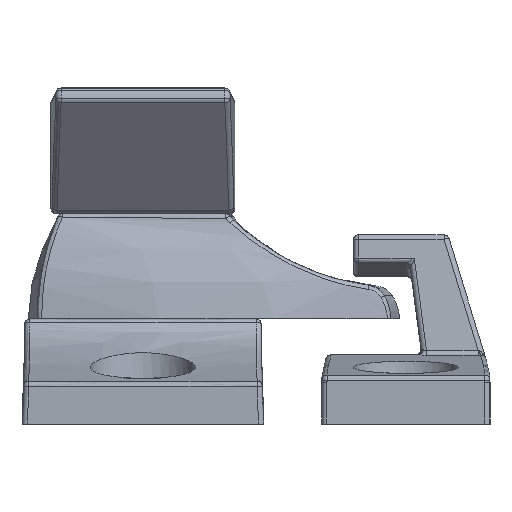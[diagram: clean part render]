
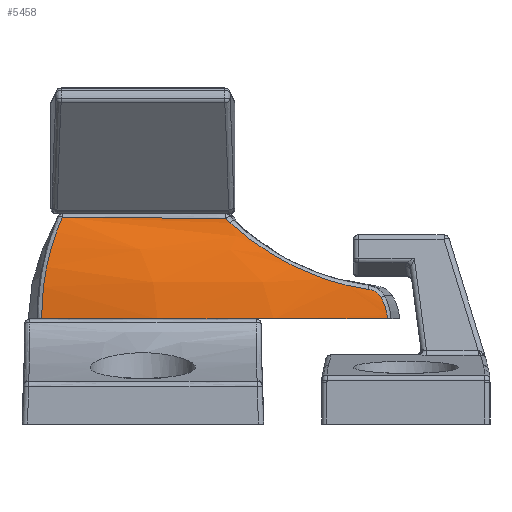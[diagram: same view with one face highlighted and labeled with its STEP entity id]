
A CAD part, left-side view. The second image highlights one B-rep face of the part: STEP entity #5458.
In plain terms, the highlighted free-form (B-spline) face has degree [3, 3] with [4, 4] control points.
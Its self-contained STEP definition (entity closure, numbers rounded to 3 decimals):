
#874=B_SPLINE_CURVE_WITH_KNOTS('',3,(#9637,#9638,#9639,#9640),
 .UNSPECIFIED.,.F.,.F.,(4,4),(-0.206,0.),
 .UNSPECIFIED.);
#877=B_SPLINE_CURVE_WITH_KNOTS('',3,(#9685,#9686,#9687,#9688,#9689,#9690),
 .UNSPECIFIED.,.F.,.F.,(4,2,4),(0.,0.054,0.148),
 .UNSPECIFIED.);
#878=B_SPLINE_CURVE_WITH_KNOTS('',3,(#9729,#9730,#9731,#9732,#9733,#9734,
#9735),.UNSPECIFIED.,.F.,.F.,(4,1,1,1,4),(-1.489,-1.276,
-1.064,-0.638,0.),.UNSPECIFIED.);
#880=B_SPLINE_CURVE_WITH_KNOTS('',3,(#9766,#9767,#9768,#9769),
 .UNSPECIFIED.,.F.,.F.,(4,4),(-0.061,0.),
 .UNSPECIFIED.);
#904=B_SPLINE_CURVE_WITH_KNOTS('',3,(#10246,#10247,#10248,#10249,#10250),
 .UNSPECIFIED.,.F.,.F.,(4,1,4),(0.,0.572,
1.),.UNSPECIFIED.);
#908=B_SPLINE_CURVE_WITH_KNOTS('',3,(#10308,#10309,#10310,#10311),
 .UNSPECIFIED.,.F.,.F.,(4,4),(-1.726,-0.174),
 .UNSPECIFIED.);
#1135=B_SPLINE_SURFACE_WITH_KNOTS('',3,3,((#10312,#10313,#10314,#10315),
(#10316,#10317,#10318,#10319),(#10320,#10321,#10322,#10323),(#10324,#10325,
#10326,#10327)),.UNSPECIFIED.,.F.,.F.,.F.,(4,4),(4,4),(0.011,
0.992),(0.,0.97),.UNSPECIFIED.);
#1389=FACE_OUTER_BOUND('',#1787,.T.);
#1787=EDGE_LOOP('',(#4418,#4419,#4420,#4421,#4422,#4423,#4424));
#2150=CIRCLE('',#5974,79.72);
#2492=VERTEX_POINT('',#9621);
#2495=VERTEX_POINT('',#9635);
#2498=VERTEX_POINT('',#9683);
#2500=VERTEX_POINT('',#9727);
#2502=VERTEX_POINT('',#9764);
#2511=VERTEX_POINT('',#9953);
#2526=VERTEX_POINT('',#10245);
#3140=EDGE_CURVE('',#2495,#2492,#874,.T.);
#3144=EDGE_CURVE('',#2498,#2495,#877,.T.);
#3146=EDGE_CURVE('',#2500,#2498,#878,.T.);
#3149=EDGE_CURVE('',#2502,#2500,#880,.T.);
#3165=EDGE_CURVE('',#2511,#2492,#2150,.T.);
#3190=EDGE_CURVE('',#2511,#2526,#904,.T.);
#3200=EDGE_CURVE('',#2526,#2502,#908,.T.);
#4418=ORIENTED_EDGE('',*,*,#3149,.F.);
#4419=ORIENTED_EDGE('',*,*,#3200,.F.);
#4420=ORIENTED_EDGE('',*,*,#3190,.F.);
#4421=ORIENTED_EDGE('',*,*,#3165,.T.);
#4422=ORIENTED_EDGE('',*,*,#3140,.F.);
#4423=ORIENTED_EDGE('',*,*,#3144,.F.);
#4424=ORIENTED_EDGE('',*,*,#3146,.F.);
#5458=ADVANCED_FACE('',(#1389),#1135,.T.);
#5974=AXIS2_PLACEMENT_3D('',#9954,#7020,#7021);
#7020=DIRECTION('center_axis',(0.,0.,1.));
#7021=DIRECTION('ref_axis',(-0.137,-0.991,0.));
#9621=CARTESIAN_POINT('',(23.229,-7.579,0.));
#9635=CARTESIAN_POINT('',(22.668,-7.607,2.018));
#9637=CARTESIAN_POINT('Ctrl Pts',(22.668,-7.607,2.018));
#9638=CARTESIAN_POINT('Ctrl Pts',(23.022,-7.59,1.409));
#9639=CARTESIAN_POINT('Ctrl Pts',(23.229,-7.579,0.706));
#9640=CARTESIAN_POINT('Ctrl Pts',(23.229,-7.579,0.));
#9683=CARTESIAN_POINT('',(21.457,-7.804,2.806));
#9685=CARTESIAN_POINT('Ctrl Pts',(21.457,-7.804,2.806));
#9686=CARTESIAN_POINT('Ctrl Pts',(21.632,-7.764,2.781));
#9687=CARTESIAN_POINT('Ctrl Pts',(21.805,-7.728,2.73));
#9688=CARTESIAN_POINT('Ctrl Pts',(22.251,-7.646,2.52));
#9689=CARTESIAN_POINT('Ctrl Pts',(22.506,-7.614,2.297));
#9690=CARTESIAN_POINT('Ctrl Pts',(22.668,-7.607,2.018));
#9727=CARTESIAN_POINT('',(8.272,-8.041,9.135));
#9729=CARTESIAN_POINT('Ctrl Pts',(8.272,-8.041,9.135));
#9730=CARTESIAN_POINT('Ctrl Pts',(8.791,-8.096,8.685));
#9731=CARTESIAN_POINT('Ctrl Pts',(9.86,-8.278,7.796));
#9732=CARTESIAN_POINT('Ctrl Pts',(12.148,-8.644,6.15));
#9733=CARTESIAN_POINT('Ctrl Pts',(15.939,-8.83,4.075));
#9734=CARTESIAN_POINT('Ctrl Pts',(19.39,-8.285,3.099));
#9735=CARTESIAN_POINT('Ctrl Pts',(21.457,-7.804,2.806));
#9764=CARTESIAN_POINT('',(7.864,-8.002,9.543));
#9766=CARTESIAN_POINT('Ctrl Pts',(7.864,-8.002,9.543));
#9767=CARTESIAN_POINT('Ctrl Pts',(7.988,-8.011,9.4));
#9768=CARTESIAN_POINT('Ctrl Pts',(8.124,-8.025,9.263));
#9769=CARTESIAN_POINT('Ctrl Pts',(8.272,-8.041,9.135));
#9953=CARTESIAN_POINT('',(-9.645,-10.048,0.));
#9954=CARTESIAN_POINT('Origin',(0.95,68.964,0.));
#10245=CARTESIAN_POINT('',(-7.668,-8.127,9.688));
#10246=CARTESIAN_POINT('Ctrl Pts',(-9.645,-10.048,0.));
#10247=CARTESIAN_POINT('Ctrl Pts',(-9.645,-10.048,1.939));
#10248=CARTESIAN_POINT('Ctrl Pts',(-9.282,-9.707,
5.376));
#10249=CARTESIAN_POINT('Ctrl Pts',(-8.182,-8.633,8.437));
#10250=CARTESIAN_POINT('Ctrl Pts',(-7.668,-8.127,
9.688));
#10308=CARTESIAN_POINT('Ctrl Pts',(-7.668,-8.127,
9.688));
#10309=CARTESIAN_POINT('Ctrl Pts',(-2.492,-8.129,
9.713));
#10310=CARTESIAN_POINT('Ctrl Pts',(2.684,-8.135,9.663));
#10311=CARTESIAN_POINT('Ctrl Pts',(7.864,-8.002,9.543));
#10312=CARTESIAN_POINT('Ctrl Pts',(-9.645,-10.048,0.));
#10313=CARTESIAN_POINT('Ctrl Pts',(-9.645,-10.048,3.764));
#10314=CARTESIAN_POINT('Ctrl Pts',(-9.077,-9.383,
6.551));
#10315=CARTESIAN_POINT('Ctrl Pts',(-7.94,-8.121,
9.702));
#10316=CARTESIAN_POINT('Ctrl Pts',(1.325,-11.52,0.));
#10317=CARTESIAN_POINT('Ctrl Pts',(1.325,-11.52,3.764));
#10318=CARTESIAN_POINT('Ctrl Pts',(0.091,-9.676,
6.533));
#10319=CARTESIAN_POINT('Ctrl Pts',(-2.364,-8.143,
9.701));
#10320=CARTESIAN_POINT('Ctrl Pts',(12.601,-10.673,0.));
#10321=CARTESIAN_POINT('Ctrl Pts',(12.601,-10.673,3.764));
#10322=CARTESIAN_POINT('Ctrl Pts',(9.373,-9.104,6.515));
#10323=CARTESIAN_POINT('Ctrl Pts',(3.222,-8.093,9.699));
#10324=CARTESIAN_POINT('Ctrl Pts',(23.229,-7.579,0.));
#10325=CARTESIAN_POINT('Ctrl Pts',(23.229,-7.579,3.764));
#10326=CARTESIAN_POINT('Ctrl Pts',(18.412,-7.693,6.497));
#10327=CARTESIAN_POINT('Ctrl Pts',(8.787,-7.973,9.697));
